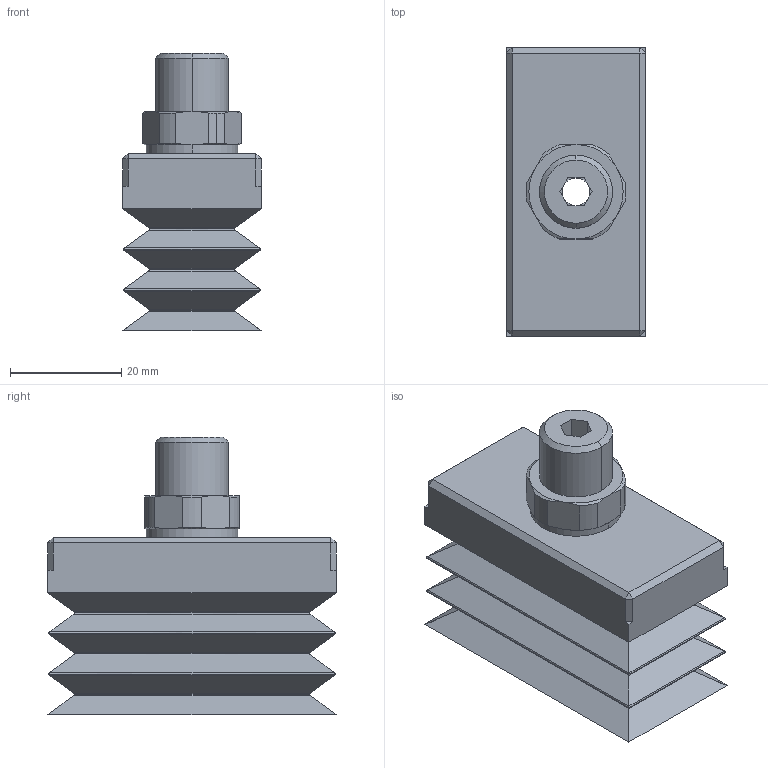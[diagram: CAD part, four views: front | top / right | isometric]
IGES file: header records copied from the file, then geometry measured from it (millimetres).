
Start section: 3D InterOp IGES (v. 2018 1.0.2), Spatial Corp. Copyright (c) 1999-2017.
Global section: file name: schmalz_10_01_06_02281_7w6n175cjo6jj9ahgs8ns39yr.igs; native system: Spatial Corp.; preprocessor: 3D InterOp ACIS/IGES; author: TraceParts; organization: TraceParts S.A.; date: 20181212.020805; units: millimetre
Bounding box: 25 x 52 x 50 mm (x, y, z)
Surface area: 15653.8 mm2 (no closed solid volume)
Topology: 0 solids, 0 shells, 231 faces, 1070 edges, 1070 vertices
Faces by surface type: extrusion 126, revolution 105
